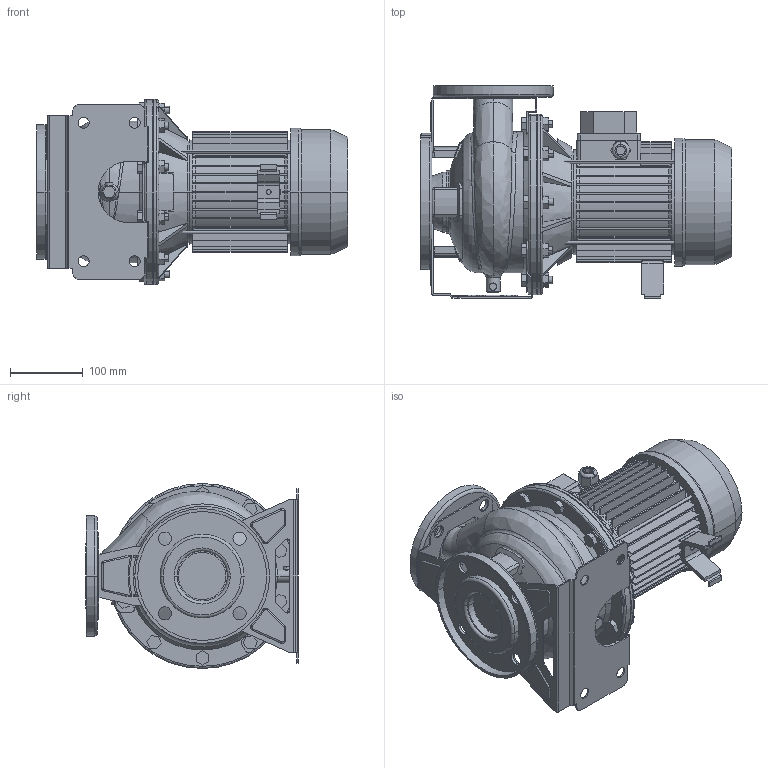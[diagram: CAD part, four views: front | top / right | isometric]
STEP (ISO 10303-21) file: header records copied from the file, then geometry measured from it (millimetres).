
FILE_DESCRIPTION((''),'2;1');
FILE_NAME('3M4_50-125_0_55_ASM','2012-03-15T',('Rosa'),('"Ebara Pumps Europe +39.444.706811"'),'PRO/ENGINEER BY PARAMETRIC TECHNOLOGY CORPORATION, 2009360','PRO/ENGINEER BY PARAMETRIC TECHNOLOGY CORPORATION, 2009360','');
FILE_SCHEMA(('AUTOMOTIVE_DESIGN { 1 0 10303 214 1 1 1 1 }'));
Length unit declared in the file: millimetre
Products named in the file (12): CORPO_50-125; ASP_50-125; FLANGIA_DIN_65; MAND_50-125; FLANGIA_DIN_50; BASE_3M_50-125; CORPO_SALDATO_50-125_ASM; SUPPORTO_3M_190_80; MEC_90S_2; SOSTEGNO_72004; 72015; 3M4_50-125_0_55_ASM
Assembly tree (11 placements, depth 3):
  3M4_50-125_0_55_ASM
    CORPO_SALDATO_50-125_ASM
      CORPO_50-125
      ASP_50-125
      FLANGIA_DIN_65
      MAND_50-125
      FLANGIA_DIN_50
      BASE_3M_50-125
    SUPPORTO_3M_190_80
    MEC_90S_2
    SOSTEGNO_72004
    72015
Bounding box: 427.5 x 292 x 254 mm (x, y, z)
Volume: 8353505.9 mm3; surface area: 1041029.7 mm2
Topology: 13 solids, 13 shells, 1127 faces, 2850 edges, 1807 vertices
Faces by surface type: plane 598, cylinder 316, cone 92, torus 68, bspline 47, sphere 6
Entity records: 50011 total; most frequent: CARTESIAN_POINT 11227, DIRECTION 5802, ORIENTED_EDGE 5700, EDGE_CURVE 2850, PRESENTATION_STYLE_ASSIGNMENT 2778, STYLED_ITEM 2778, CURVE_STYLE 2766, AXIS2_PLACEMENT_3D 2114
